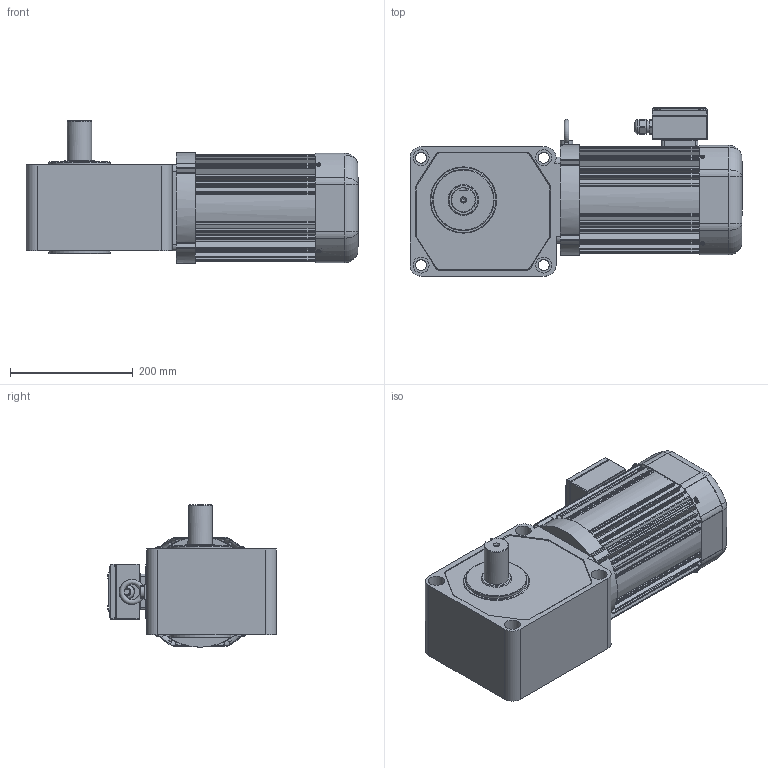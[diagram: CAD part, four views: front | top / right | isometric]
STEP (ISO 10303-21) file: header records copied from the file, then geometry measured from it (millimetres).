
FILE_DESCRIPTION(/* description */ (''),/* implementation_level */ '2;1');
FILE_NAME(/* name */ 'Z:\동력 3D 파일\PCS40R_1.5kW_3D.stp',/* time_stamp */ '2021-11-09T13:36:57+09:00',/* author */ ('jaebok'),/* organization */ (''),/* preprocessor_version */ 'ST-DEVELOPER v18.1',/* originating_system */ 'Autodesk Inventor 2022',/* authorisation */ '');
FILE_SCHEMA (('AUTOMOTIVE_DESIGN { 1 0 10303 214 3 1 1 }'));
Products named in the file (1): 부품73
Bounding box: 541 x 274.5 x 232 mm (x, y, z)
Volume: 9154702.6 mm3; surface area: 869077.2 mm2
Topology: 1 solids, 25 shells, 1757 faces, 4623 edges, 2912 vertices
Faces by surface type: plane 710, cylinder 646, bspline 238, torus 86, cone 57, sphere 20
Full cylindrical faces by diameter (mm): 3.25 x1, 3.6 x4, 4 x22, 4.917 x4, 5 x17, 6 x1, 6.647 x1, 7 x12, 8 x1, 8.8 x1, 10 x3, 12.5 x1, 15 x1, 18 x4, 20 x2, 21 x1, 23.6 x1, 25 x2, 26 x5, 36 x1, 38 x1, 40 x1, 52 x1, 100 x2, 156 x1, 160 x2, 161 x1, 165.4 x2, 168 x4
Entity records: 64065 total; most frequent: CARTESIAN_POINT 19697, ORIENTED_EDGE 9122, DIRECTION 8771, EDGE_CURVE 4561, AXIS2_PLACEMENT_3D 3350, VERTEX_POINT 2911, LINE 2071, VECTOR 2071
